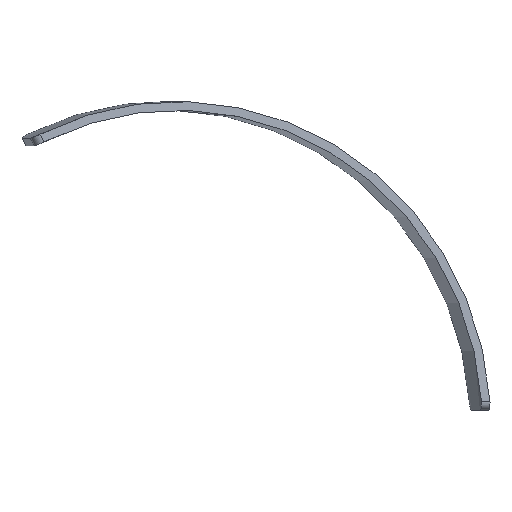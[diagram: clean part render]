
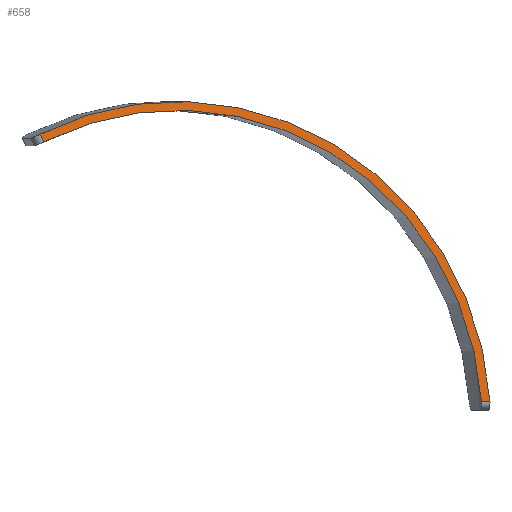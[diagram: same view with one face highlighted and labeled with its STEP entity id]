
A CAD part, left-side view. The second image highlights one B-rep face of the part: STEP entity #658.
In plain terms, the highlighted planar face has unit normal (-0.972, -0.233, 0).
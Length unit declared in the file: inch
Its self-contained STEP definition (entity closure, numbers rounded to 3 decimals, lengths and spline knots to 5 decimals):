
#14 = AXIS2_PLACEMENT_3D ( 'NONE', #105, #566, #50 ) ;
#21 = DIRECTION ( 'NONE',  ( 0.233, -0.972, 0.042 ) ) ;
#50 = DIRECTION ( 'NONE',  ( 0.233, -0.972, 0. ) ) ;
#59 = AXIS2_PLACEMENT_3D ( 'NONE', #420, #80, #582 ) ;
#80 = DIRECTION ( 'NONE',  ( -0.972, -0.233, 0. ) ) ;
#95 = CARTESIAN_POINT ( 'NONE',  ( 21.22019, -101.23943, 33.19826 ) ) ;
#105 = CARTESIAN_POINT ( 'NONE',  ( 25.00998, -117.02503, 0. ) ) ;
#113 = PLANE ( 'NONE',  #673 ) ;
#119 = DIRECTION ( 'NONE',  ( -0.233, 0.972, 0. ) ) ;
#143 = CARTESIAN_POINT ( 'NONE',  ( 33.38322, -151.90207, 2.49855 ) ) ;
#153 = VERTEX_POINT ( 'NONE', #157 ) ;
#157 = CARTESIAN_POINT ( 'NONE',  ( 33.61655, -152.87396, 2.54028 ) ) ;
#174 = VERTEX_POINT ( 'NONE', #487 ) ;
#177 = ORIENTED_EDGE ( 'NONE', *, *, #283, .T. ) ;
#179 = CIRCLE ( 'NONE', #59, 35.955 ) ;
#218 = VECTOR ( 'NONE', #21, 39.37008 ) ;
#274 = VERTEX_POINT ( 'NONE', #143 ) ;
#283 = EDGE_CURVE ( 'NONE', #274, #153, #375, .T. ) ;
#290 = LINE ( 'NONE', #459, #313 ) ;
#305 = DIRECTION ( 'NONE',  ( 0.108, -0.451, -0.886 ) ) ;
#313 = VECTOR ( 'NONE', #305, 39.37008 ) ;
#350 = CARTESIAN_POINT ( 'NONE',  ( 25.00998, -117.02503, 0. ) ) ;
#375 = LINE ( 'NONE', #507, #218 ) ;
#420 = CARTESIAN_POINT ( 'NONE',  ( 25.00998, -117.02503, 0. ) ) ;
#457 = EDGE_LOOP ( 'NONE', ( #734, #573, #567, #177 ) ) ;
#459 = CARTESIAN_POINT ( 'NONE',  ( 25.21684, -117.88667, 0.46344 ) ) ;
#463 = CIRCLE ( 'NONE', #14, 36.955 ) ;
#487 = CARTESIAN_POINT ( 'NONE',  ( 21.32842, -101.69024, 32.3118 ) ) ;
#507 = CARTESIAN_POINT ( 'NONE',  ( 25.00024, -116.98446, 0.99913 ) ) ;
#512 = VERTEX_POINT ( 'NONE', #95 ) ;
#566 = DIRECTION ( 'NONE',  ( -0.972, -0.233, 0. ) ) ;
#567 = ORIENTED_EDGE ( 'NONE', *, *, #716, .F. ) ;
#573 = ORIENTED_EDGE ( 'NONE', *, *, #714, .T. ) ;
#582 = DIRECTION ( 'NONE',  ( 0.233, -0.972, 0. ) ) ;
#631 = FACE_OUTER_BOUND ( 'NONE', #457, .T. ) ;
#658 = ADVANCED_FACE ( 'NONE', ( #631 ), #113, .F. ) ;
#673 = AXIS2_PLACEMENT_3D ( 'NONE', #350, #754, #119 ) ;
#699 = EDGE_CURVE ( 'NONE', #153, #512, #463, .T. ) ;
#714 = EDGE_CURVE ( 'NONE', #512, #174, #290, .T. ) ;
#716 = EDGE_CURVE ( 'NONE', #274, #174, #179, .T. ) ;
#734 = ORIENTED_EDGE ( 'NONE', *, *, #699, .T. ) ;
#754 = DIRECTION ( 'NONE',  ( 0.972, 0.233, 0. ) ) ;
